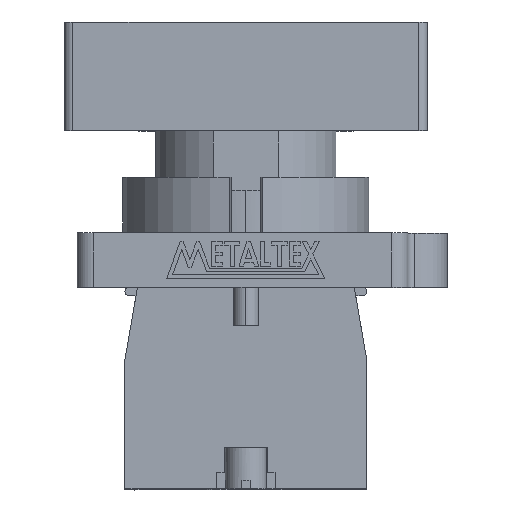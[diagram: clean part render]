
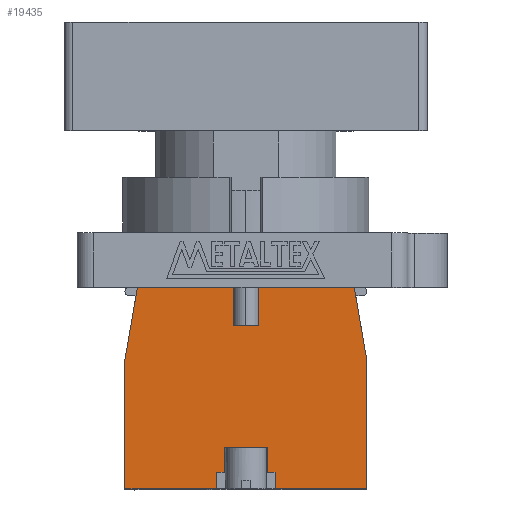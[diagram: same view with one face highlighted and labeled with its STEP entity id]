
A CAD part, top view. The second image highlights one B-rep face of the part: STEP entity #19435.
In plain terms, the highlighted planar face has unit normal (0, 0, 1).
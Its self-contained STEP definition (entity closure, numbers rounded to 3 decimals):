
#291 = EDGE_LOOP ( 'NONE', ( #18136, #18138, #18135, #18137, #18139, #18140, #18142, #18141, #18143, #18144, #18146, #18145, #18147, #18149, #18148, #18150, #18151, #18153 ) ) ;
#450 = VERTEX_POINT ( 'NONE', #12088 ) ;
#451 = VERTEX_POINT ( 'NONE', #12089 ) ;
#458 = VERTEX_POINT ( 'NONE', #12096 ) ;
#460 = VERTEX_POINT ( 'NONE', #12098 ) ;
#463 = VERTEX_POINT ( 'NONE', #12101 ) ;
#464 = VERTEX_POINT ( 'NONE', #12102 ) ;
#485 = VERTEX_POINT ( 'NONE', #12123 ) ;
#487 = VERTEX_POINT ( 'NONE', #12125 ) ;
#488 = VERTEX_POINT ( 'NONE', #12126 ) ;
#491 = VERTEX_POINT ( 'NONE', #12129 ) ;
#492 = VERTEX_POINT ( 'NONE', #12130 ) ;
#2031 = EDGE_CURVE ( 'NONE', #460, #485, #13569, .T. ) ;
#2032 = EDGE_CURVE ( 'NONE', #16405, #17235, #13572, .T. ) ;
#2033 = EDGE_CURVE ( 'NONE', #17236, #17235, #13575, .T. ) ;
#2034 = EDGE_CURVE ( 'NONE', #17236, #464, #13578, .T. ) ;
#2035 = EDGE_CURVE ( 'NONE', #17237, #463, #13581, .T. ) ;
#2036 = EDGE_CURVE ( 'NONE', #17238, #17237, #13584, .T. ) ;
#2037 = EDGE_CURVE ( 'NONE', #16409, #17238, #13587, .T. ) ;
#2038 = EDGE_CURVE ( 'NONE', #458, #487, #13590, .T. ) ;
#2039 = EDGE_CURVE ( 'NONE', #488, #450, #13593, .T. ) ;
#2043 = EDGE_CURVE ( 'NONE', #16406, #491, #13605, .T. ) ;
#2081 = EDGE_CURVE ( 'NONE', #451, #16409, #13719, .T. ) ;
#2084 = EDGE_CURVE ( 'NONE', #16405, #16406, #13728, .T. ) ;
#2149 = EDGE_CURVE ( 'NONE', #450, #451, #14143, .T. ) ;
#2156 = EDGE_CURVE ( 'NONE', #460, #458, #14164, .T. ) ;
#2162 = EDGE_CURVE ( 'NONE', #464, #463, #14182, .T. ) ;
#2196 = EDGE_CURVE ( 'NONE', #492, #485, #14284, .T. ) ;
#2200 = EDGE_CURVE ( 'NONE', #487, #488, #14296, .T. ) ;
#2207 = EDGE_CURVE ( 'NONE', #491, #492, #14317, .T. ) ;
#3468 = CARTESIAN_POINT ( 'NONE',  ( 3.5, 0., 7.45 ) ) ;
#3469 = CARTESIAN_POINT ( 'NONE',  ( 14.5, 0., 7.45 ) ) ;
#3472 = CARTESIAN_POINT ( 'NONE',  ( -3.5, 0., 7.45 ) ) ;
#3577 = CARTESIAN_POINT ( 'NONE',  ( 3.5, 2., 7.45 ) ) ;
#3578 = CARTESIAN_POINT ( 'NONE',  ( 2.6, 2., 7.45 ) ) ;
#3579 = CARTESIAN_POINT ( 'NONE',  ( -2.6, 2., 7.45 ) ) ;
#3580 = CARTESIAN_POINT ( 'NONE',  ( -3.5, 2., 7.45 ) ) ;
#4354 = PLANE ( 'NONE',  #11707 ) ;
#4355 = CARTESIAN_POINT ( 'NONE',  ( 0., 0., 7.45 ) ) ;
#4356 = DIRECTION ( 'NONE',  ( 0., 0., 1. ) ) ;
#4357 = DIRECTION ( 'NONE',  ( 1., 0., 0. ) ) ;
#5146 = DIRECTION ( 'NONE',  ( -0.17, 0.985, 0. ) ) ;
#11706 = FACE_OUTER_BOUND ( 'NONE', #291, .T. ) ;
#11707 = AXIS2_PLACEMENT_3D ( 'NONE', #4355, #4356, #4357 ) ;
#12088 = CARTESIAN_POINT ( 'NONE',  ( -14.5, 15.5, 7.45 ) ) ;
#12089 = CARTESIAN_POINT ( 'NONE',  ( -14.5, 0., 7.45 ) ) ;
#12096 = CARTESIAN_POINT ( 'NONE',  ( -1.5, 19.6, 7.45 ) ) ;
#12098 = CARTESIAN_POINT ( 'NONE',  ( 1.5, 19.6, 7.45 ) ) ;
#12101 = CARTESIAN_POINT ( 'NONE',  ( -2.6, 5., 7.45 ) ) ;
#12102 = CARTESIAN_POINT ( 'NONE',  ( 2.6, 5., 7.45 ) ) ;
#12123 = CARTESIAN_POINT ( 'NONE',  ( 1.5, 24.2, 7.45 ) ) ;
#12125 = CARTESIAN_POINT ( 'NONE',  ( -1.5, 24.2, 7.45 ) ) ;
#12126 = CARTESIAN_POINT ( 'NONE',  ( -13., 24.2, 7.45 ) ) ;
#12129 = CARTESIAN_POINT ( 'NONE',  ( 14.5, 15.5, 7.45 ) ) ;
#12130 = CARTESIAN_POINT ( 'NONE',  ( 13., 24.2, 7.45 ) ) ;
#13569 = LINE ( 'NONE', #13570, #17906 ) ;
#13570 = CARTESIAN_POINT ( 'NONE',  ( 1.5, 19.6, 7.45 ) ) ;
#13571 = DIRECTION ( 'NONE',  ( 0., 1., 0. ) ) ;
#13572 = LINE ( 'NONE', #13573, #17908 ) ;
#13573 = CARTESIAN_POINT ( 'NONE',  ( 3.5, 0., 7.45 ) ) ;
#13574 = DIRECTION ( 'NONE',  ( 0., 1., 0. ) ) ;
#13575 = LINE ( 'NONE', #13576, #17893 ) ;
#13576 = CARTESIAN_POINT ( 'NONE',  ( 0., 2., 7.45 ) ) ;
#13577 = DIRECTION ( 'NONE',  ( 1., 0., 0. ) ) ;
#13578 = LINE ( 'NONE', #13579, #17891 ) ;
#13579 = CARTESIAN_POINT ( 'NONE',  ( 2.6, 0., 7.45 ) ) ;
#13580 = DIRECTION ( 'NONE',  ( 0., 1., 0. ) ) ;
#13581 = LINE ( 'NONE', #13582, #17889 ) ;
#13582 = CARTESIAN_POINT ( 'NONE',  ( -2.6, 0., 7.45 ) ) ;
#13583 = DIRECTION ( 'NONE',  ( 0., 1., 0. ) ) ;
#13584 = LINE ( 'NONE', #13585, #17887 ) ;
#13585 = CARTESIAN_POINT ( 'NONE',  ( 0., 2., 7.45 ) ) ;
#13586 = DIRECTION ( 'NONE',  ( 1., 0., 0. ) ) ;
#13587 = LINE ( 'NONE', #13588, #17903 ) ;
#13588 = CARTESIAN_POINT ( 'NONE',  ( -3.5, 0., 7.45 ) ) ;
#13589 = DIRECTION ( 'NONE',  ( 0., 1., 0. ) ) ;
#13590 = LINE ( 'NONE', #13591, #17902 ) ;
#13591 = CARTESIAN_POINT ( 'NONE',  ( -1.5, 19.6, 7.45 ) ) ;
#13592 = DIRECTION ( 'NONE',  ( 0., 1., 0. ) ) ;
#13593 = LINE ( 'NONE', #13594, #17900 ) ;
#13594 = CARTESIAN_POINT ( 'NONE',  ( -13., 24.2, 7.45 ) ) ;
#13595 = DIRECTION ( 'NONE',  ( -0.17, -0.985, 0. ) ) ;
#13605 = LINE ( 'NONE', #13606, #17885 ) ;
#13606 = CARTESIAN_POINT ( 'NONE',  ( 14.5, 0., 7.45 ) ) ;
#13607 = DIRECTION ( 'NONE',  ( 0., 1., 0. ) ) ;
#13719 = LINE ( 'NONE', #13720, #17913 ) ;
#13720 = CARTESIAN_POINT ( 'NONE',  ( -14.5, 0., 7.45 ) ) ;
#13721 = DIRECTION ( 'NONE',  ( 1., 0., 0. ) ) ;
#13728 = LINE ( 'NONE', #13729, #17745 ) ;
#13729 = CARTESIAN_POINT ( 'NONE',  ( -14.5, 0., 7.45 ) ) ;
#13730 = DIRECTION ( 'NONE',  ( 1., 0., 0. ) ) ;
#14143 = LINE ( 'NONE', #14144, #17631 ) ;
#14144 = CARTESIAN_POINT ( 'NONE',  ( -14.5, 15.5, 7.45 ) ) ;
#14145 = DIRECTION ( 'NONE',  ( 0., -1., 0. ) ) ;
#14164 = LINE ( 'NONE', #14165, #17742 ) ;
#14165 = CARTESIAN_POINT ( 'NONE',  ( 0., 19.6, 7.45 ) ) ;
#14166 = DIRECTION ( 'NONE',  ( -1., 0., 0. ) ) ;
#14182 = LINE ( 'NONE', #14183, #17785 ) ;
#14183 = CARTESIAN_POINT ( 'NONE',  ( 0., 5., 7.45 ) ) ;
#14184 = DIRECTION ( 'NONE',  ( -1., 0., 0. ) ) ;
#14284 = LINE ( 'NONE', #14285, #17510 ) ;
#14285 = CARTESIAN_POINT ( 'NONE',  ( 13., 24.2, 7.45 ) ) ;
#14286 = DIRECTION ( 'NONE',  ( -1., 0., 0. ) ) ;
#14296 = LINE ( 'NONE', #14297, #17784 ) ;
#14297 = CARTESIAN_POINT ( 'NONE',  ( 13., 24.2, 7.45 ) ) ;
#14298 = DIRECTION ( 'NONE',  ( -1., 0., 0. ) ) ;
#14317 = LINE ( 'NONE', #14318, #17782 ) ;
#14318 = CARTESIAN_POINT ( 'NONE',  ( 14.5, 15.5, 7.45 ) ) ;
#16405 = VERTEX_POINT ( 'NONE', #3468 ) ;
#16406 = VERTEX_POINT ( 'NONE', #3469 ) ;
#16409 = VERTEX_POINT ( 'NONE', #3472 ) ;
#17235 = VERTEX_POINT ( 'NONE', #3577 ) ;
#17236 = VERTEX_POINT ( 'NONE', #3578 ) ;
#17237 = VERTEX_POINT ( 'NONE', #3579 ) ;
#17238 = VERTEX_POINT ( 'NONE', #3580 ) ;
#17510 = VECTOR ( 'NONE', #14286, 1000. ) ;
#17631 = VECTOR ( 'NONE', #14145, 1000. ) ;
#17742 = VECTOR ( 'NONE', #14166, 1000. ) ;
#17745 = VECTOR ( 'NONE', #13730, 1000. ) ;
#17782 = VECTOR ( 'NONE', #5146, 1000. ) ;
#17784 = VECTOR ( 'NONE', #14298, 1000. ) ;
#17785 = VECTOR ( 'NONE', #14184, 1000. ) ;
#17885 = VECTOR ( 'NONE', #13607, 1000. ) ;
#17887 = VECTOR ( 'NONE', #13586, 1000. ) ;
#17889 = VECTOR ( 'NONE', #13583, 1000. ) ;
#17891 = VECTOR ( 'NONE', #13580, 1000. ) ;
#17893 = VECTOR ( 'NONE', #13577, 1000. ) ;
#17900 = VECTOR ( 'NONE', #13595, 1000. ) ;
#17902 = VECTOR ( 'NONE', #13592, 1000. ) ;
#17903 = VECTOR ( 'NONE', #13589, 1000. ) ;
#17906 = VECTOR ( 'NONE', #13571, 1000. ) ;
#17908 = VECTOR ( 'NONE', #13574, 1000. ) ;
#17913 = VECTOR ( 'NONE', #13721, 1000. ) ;
#18135 = ORIENTED_EDGE ( 'NONE', *, *, #2039, .T. ) ;
#18136 = ORIENTED_EDGE ( 'NONE', *, *, #2038, .T. ) ;
#18137 = ORIENTED_EDGE ( 'NONE', *, *, #2149, .T. ) ;
#18138 = ORIENTED_EDGE ( 'NONE', *, *, #2200, .T. ) ;
#18139 = ORIENTED_EDGE ( 'NONE', *, *, #2081, .T. ) ;
#18140 = ORIENTED_EDGE ( 'NONE', *, *, #2037, .T. ) ;
#18141 = ORIENTED_EDGE ( 'NONE', *, *, #2035, .T. ) ;
#18142 = ORIENTED_EDGE ( 'NONE', *, *, #2036, .T. ) ;
#18143 = ORIENTED_EDGE ( 'NONE', *, *, #2162, .F. ) ;
#18144 = ORIENTED_EDGE ( 'NONE', *, *, #2034, .F. ) ;
#18145 = ORIENTED_EDGE ( 'NONE', *, *, #2032, .F. ) ;
#18146 = ORIENTED_EDGE ( 'NONE', *, *, #2033, .T. ) ;
#18147 = ORIENTED_EDGE ( 'NONE', *, *, #2084, .T. ) ;
#18148 = ORIENTED_EDGE ( 'NONE', *, *, #2207, .T. ) ;
#18149 = ORIENTED_EDGE ( 'NONE', *, *, #2043, .T. ) ;
#18150 = ORIENTED_EDGE ( 'NONE', *, *, #2196, .T. ) ;
#18151 = ORIENTED_EDGE ( 'NONE', *, *, #2031, .F. ) ;
#18153 = ORIENTED_EDGE ( 'NONE', *, *, #2156, .T. ) ;
#19435 = ADVANCED_FACE ( 'NONE', ( #11706 ), #4354, .T. ) ;
